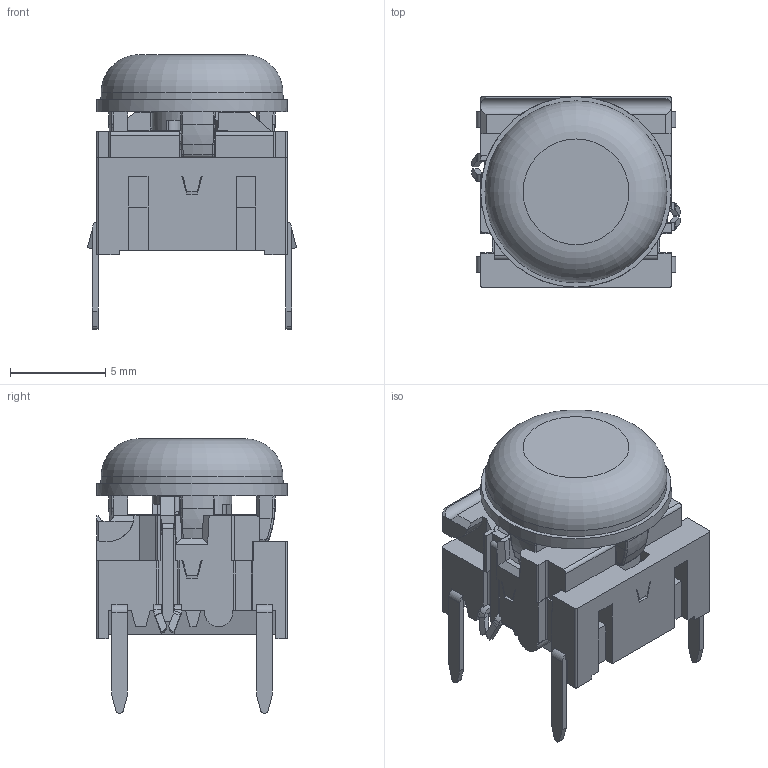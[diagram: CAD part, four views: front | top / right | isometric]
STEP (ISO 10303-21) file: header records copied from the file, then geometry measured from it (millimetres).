
FILE_DESCRIPTION(/* description */ (''),/* implementation_level */ '2;1');
FILE_NAME(/* name */ 'C:\Users\cgh.MEC\Desktop\Traceparts - 3D programserie\STEP filer\il-TH\5GTH9xxxxxxx+1JS.stp',/* time_stamp */ '2016-02-29T07:17:41+01:00',/* author */ ('cgh'),/* organization */ (''),/* preprocessor_version */ 'ST-DEVELOPER v15.2',/* originating_system */ 'Autodesk Inventor 2014',/* authorisation */ '');
FILE_SCHEMA (('AUTOMOTIVE_DESIGN { 1 0 10303 214 3 1 1 }'));
Length unit declared in the file: centimetre
Products named in the file (1): cgh
Bounding box: 10.98 x 10 x 14.41 mm (x, y, z)
Volume: 549 mm3; surface area: 1378.4 mm2
Topology: 1 solids, 1 shells, 1306 faces, 3690 edges, 2402 vertices
Faces by surface type: plane 826, cylinder 202, bspline 164, torus 66, cone 43, sphere 5
Full cylindrical faces by diameter (mm): 0.9 x1, 1 x3, 2.8 x1, 4.73 x1, 6.5 x1, 7.16 x1, 7.44 x1, 10 x1
Entity records: 46442 total; most frequent: CARTESIAN_POINT 12351, ORIENTED_EDGE 7300, DIRECTION 6128, EDGE_CURVE 3642, VERTEX_POINT 2387, LINE 2352, VECTOR 2352, AXIS2_PLACEMENT_3D 1888
